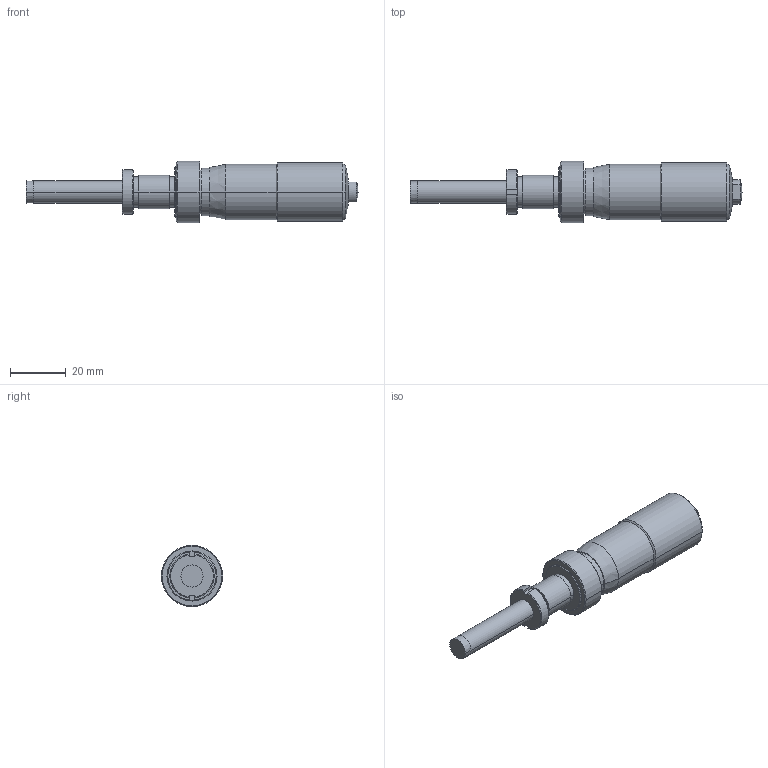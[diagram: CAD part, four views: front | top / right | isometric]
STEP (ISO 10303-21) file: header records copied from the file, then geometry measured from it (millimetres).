
FILE_DESCRIPTION(('Creo Elements/Direct Modeling STEP Export'),'2;1');
FILE_NAME('151-226-10_MHH2-25LTA.stp','2022-09-26T12:59:31',(''),(''),'Creo Elements/Direct Modeling STEP processor for AP214 (Solid Model)','Creo Elements/Direct Modeling 18.1H 24-Oct-2015 (C) Parametric Technology GmbH','');
FILE_SCHEMA(('AUTOMOTIVE_DESIGN { 1 0 10303 214 1 1 1 1 }'));
Length unit declared in the file: millimetre
Products named in the file (1): 151-226_MHH2-25LT_PRT.PRT
Bounding box: 119.5 x 22 x 22 mm (x, y, z)
Volume: 24554.2 mm3; surface area: 6774.8 mm2
Topology: 1 solids, 1 shells, 65 faces, 144 edges, 89 vertices
Faces by surface type: cylinder 24, cone 20, plane 19, sphere 2
Entity records: 1724 total; most frequent: CARTESIAN_POINT 314, ORIENTED_EDGE 284, DIRECTION 272, EDGE_CURVE 142, AXIS2_PLACEMENT_3D 105, VERTEX_POINT 89, EDGE_LOOP 75, FACE_OUTER_BOUND 65
